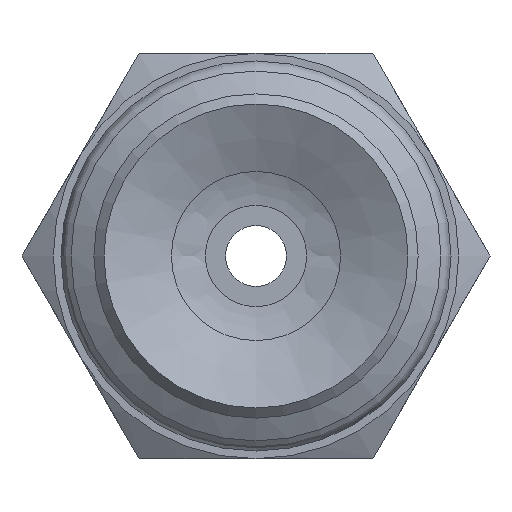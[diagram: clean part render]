
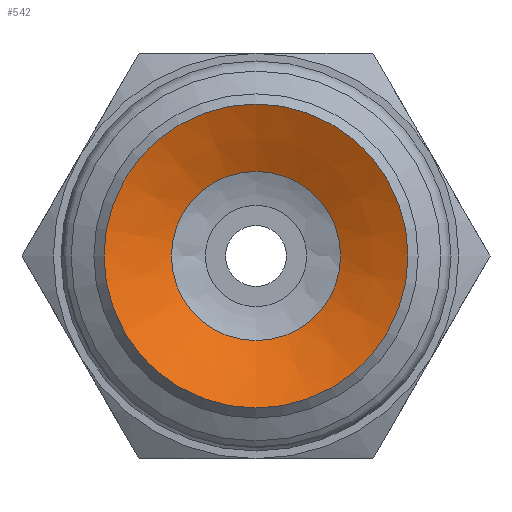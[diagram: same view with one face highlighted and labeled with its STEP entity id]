
A CAD part, front view. The second image highlights one B-rep face of the part: STEP entity #542.
In plain terms, the highlighted conical face has half-angle 64.998 degrees and reference radius 1.285 mm.
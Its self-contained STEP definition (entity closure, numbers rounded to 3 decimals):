
#542=ADVANCED_FACE('',(#780,#781),#782,.F.);
#780=FACE_BOUND('',#1093,.T.);
#781=FACE_OUTER_BOUND('',#1094,.T.);
#782=CONICAL_SURFACE('',#1095,1.285,1.134);
#1093=EDGE_LOOP('',(#1719));
#1094=EDGE_LOOP('',(#1720));
#1095=AXIS2_PLACEMENT_3D('',#1721,#1722,#1723);
#1719=ORIENTED_EDGE('',*,*,#2015,.T.);
#1720=ORIENTED_EDGE('',*,*,#2016,.T.);
#1721=CARTESIAN_POINT('',(0.0,0.8,0.0));
#1722=DIRECTION('',(-0.0,-1.0,0.));
#1723=DIRECTION('',(0.0,0.,-1.0));
#2015=EDGE_CURVE('',#2306,#2306,#2307,.T.);
#2016=EDGE_CURVE('',#2308,#2308,#2309,.T.);
#2306=VERTEX_POINT('',#2924);
#2307=CIRCLE('',#2925,1.67);
#2308=VERTEX_POINT('',#2926);
#2309=CIRCLE('',#2927,3.);
#2924=CARTESIAN_POINT('',(0.0,0.62,-1.67));
#2925=AXIS2_PLACEMENT_3D('',#3243,#3244,#3245);
#2926=CARTESIAN_POINT('',(0.0,0.,-3.));
#2927=AXIS2_PLACEMENT_3D('',#3246,#3247,#3248);
#3243=CARTESIAN_POINT('',(0.0,0.62,0.0));
#3244=DIRECTION('',(0.0,1.0,0.));
#3245=DIRECTION('',(0.0,0.,-1.0));
#3246=CARTESIAN_POINT('',(0.0,0.0,0.0));
#3247=DIRECTION('',(0.0,-1.0,0.));
#3248=DIRECTION('',(0.0,0.,-1.0));
